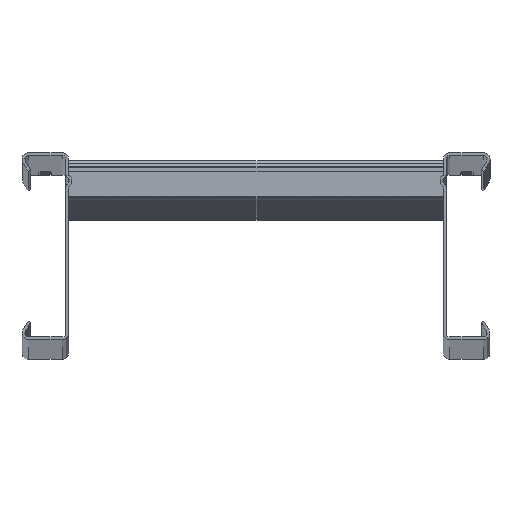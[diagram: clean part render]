
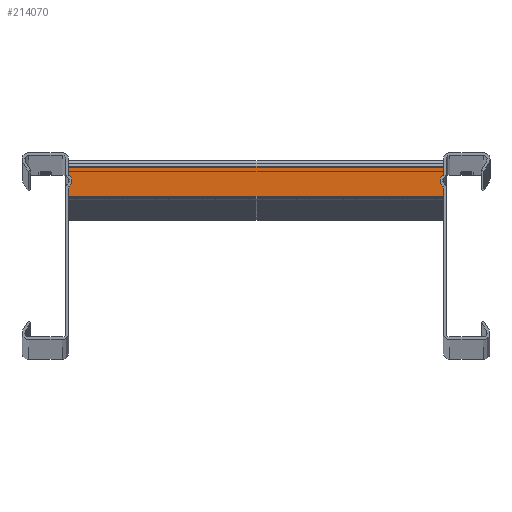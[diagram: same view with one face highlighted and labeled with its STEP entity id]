
A CAD part, top view. The second image highlights one B-rep face of the part: STEP entity #214070.
In plain terms, the highlighted planar face has unit normal (0, 0, 1) as drawn and (-1, 0, 0) by its records, which use the part's own axes.
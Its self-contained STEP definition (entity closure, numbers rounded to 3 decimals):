
#191580=CARTESIAN_POINT('',(0.25,897.,400.));
#191590=VERTEX_POINT('',#191580);
#191620=CARTESIAN_POINT('',(0.25,0.,400.));
#191630=DIRECTION('',(0.,1.,0.));
#191640=VECTOR('',#191630,1.);
#191650=LINE('',#191620,#191640);
#191660=CARTESIAN_POINT('',(0.25,881.,400.));
#191670=VERTEX_POINT('',#191660);
#191680=EDGE_CURVE('',#191670,#191590,#191650,.T.);
#193220=CARTESIAN_POINT('',(0.25,881.,600.));
#193230=VERTEX_POINT('',#193220);
#193280=CARTESIAN_POINT('',(0.25,881.,0.));
#193290=DIRECTION('',(0.,0.,1.));
#193300=VECTOR('',#193290,1.);
#193310=LINE('',#193280,#193300);
#193320=EDGE_CURVE('',#191670,#193230,#193310,.T.);
#193490=CARTESIAN_POINT('',(0.25,897.,600.));
#193500=VERTEX_POINT('',#193490);
#193530=CARTESIAN_POINT('',(0.25,897.,0.));
#193540=DIRECTION('',(0.,0.,1.));
#193550=VECTOR('',#193540,1.);
#193560=LINE('',#193530,#193550);
#193570=EDGE_CURVE('',#191590,#193500,#193560,.T.);
#212400=CARTESIAN_POINT('',(0.25,0.,600.));
#212410=DIRECTION('',(0.,-1.,0.));
#212420=VECTOR('',#212410,1.);
#212430=LINE('',#212400,#212420);
#212440=EDGE_CURVE('',#193500,#193230,#212430,.T.);
#213960=CARTESIAN_POINT('',(0.25,878.,0.));
#213970=DIRECTION('',(-1.,0.,0.));
#213980=DIRECTION('',(0.,1.,0.));
#213990=AXIS2_PLACEMENT_3D('',#213960,#213970,#213980);
#214000=PLANE('',#213990);
#214010=ORIENTED_EDGE('',*,*,#191680,.F.);
#214020=ORIENTED_EDGE('',*,*,#193570,.F.);
#214030=ORIENTED_EDGE('',*,*,#212440,.F.);
#214040=ORIENTED_EDGE('',*,*,#193320,.T.);
#214050=EDGE_LOOP('',(#214040,#214030,#214020,#214010));
#214060=FACE_OUTER_BOUND('',#214050,.T.);
#214070=ADVANCED_FACE('',(#214060),#214000,.T.);
